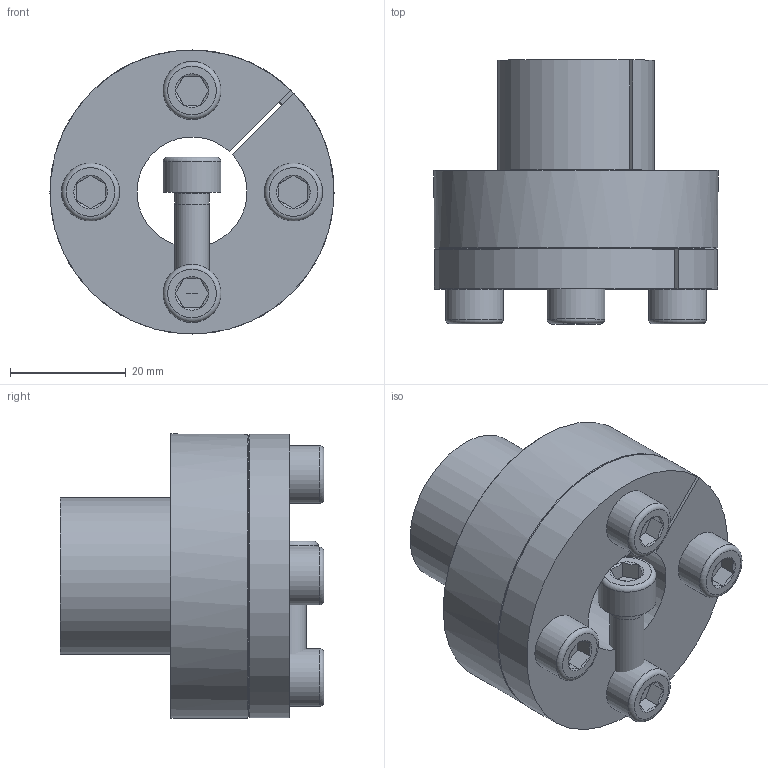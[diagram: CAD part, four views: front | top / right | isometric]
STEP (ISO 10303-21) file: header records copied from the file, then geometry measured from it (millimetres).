
FILE_DESCRIPTION( ( 'Unknown' ), '1' );
FILE_NAME( 'C:/Dokumente und Einstellungen/Sven/Desktop/homepage/cad - homepage/KBS80/KBS 80 - 19 x 27.stp', 'Unknown', ( 'Unknown' ), ( 'Unknown' ), 'XStep 1.0', 'Unknown', ' ' );
FILE_SCHEMA( ( 'automotive_design' ) );
Length unit declared in the file: millimetre
Products named in the file (6): Assem1; KBS 80 - 19 x 27; ISO EN DIN 4762 M6x18; ISO EN DIN 4762 M6x18-oa0; ISO EN DIN 4762 M6x18-oa1; ISO EN DIN 4762 M6x18-oa2
Bounding box: 49 x 45.5 x 49 mm (x, y, z)
Volume: 78593.5 mm3; surface area: 30494.2 mm2
Topology: 10 solids, 10 shells, 248 faces, 478 edges, 280 vertices
Faces by surface type: plane 112, cone 70, cylinder 50, torus 16
Full cylindrical faces by diameter (mm): 5 x8, 6 x24, 10 x8, 49 x2
Entity records: 3283 total; most frequent: CARTESIAN_POINT 661, DIRECTION 516, ORIENTED_EDGE 386, AXIS2_PLACEMENT_3D 225, EDGE_CURVE 193, EDGE_LOOP 185, FACE_OUTER_BOUND 153, VERTEX_POINT 130
